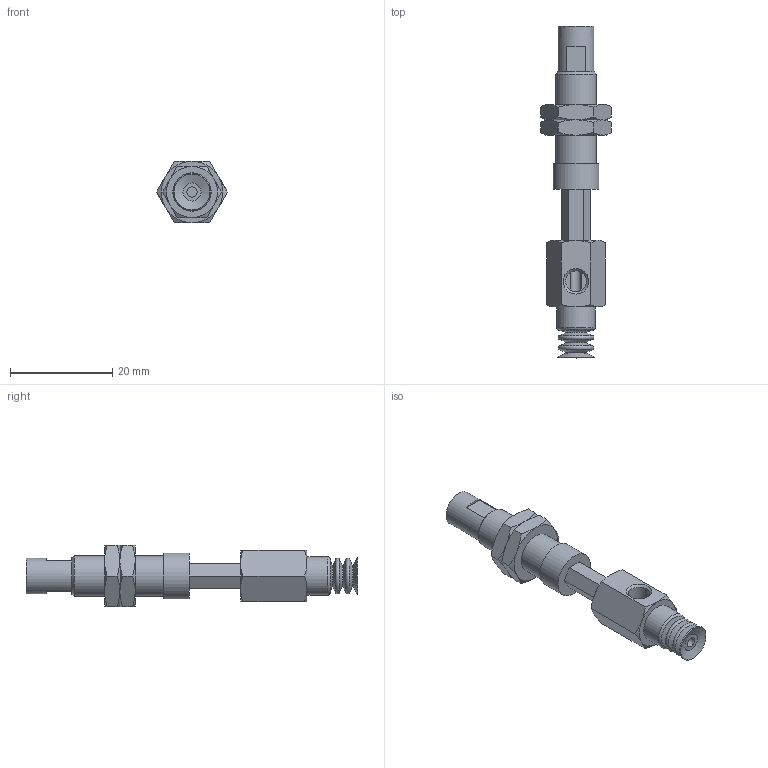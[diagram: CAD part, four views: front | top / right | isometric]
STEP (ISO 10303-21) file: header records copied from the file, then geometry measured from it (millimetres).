
FILE_DESCRIPTION(('STEP AP203'),'1');
FILE_NAME('.stp','2025-04-03T07:37:01',(' '),(' '),'Spatial InterOp 3D',' ',' ');
FILE_SCHEMA(('CONFIG_CONTROL_DESIGN'));
Length unit declared in the file: millimetre
Products named in the file (6): BNABPCYH-7-10-※; Connector_h-7-10; Nut napc_h-7-10; NAPCTH-7-10-FBODY; NAPCTH-7-10-MBODY; BPCG-7-※
Assembly tree (6 placements, depth 2):
  BNABPCYH-7-10-※
    Connector_h-7-10
    Nut napc_h-7-10  x2
    NAPCTH-7-10-FBODY
    NAPCTH-7-10-MBODY
    BPCG-7-※
Bounding box: 13.86 x 65 x 12 mm (x, y, z)
Volume: 3448.6 mm3; surface area: 4258.7 mm2
Topology: 6 solids, 6 shells, 146 faces, 310 edges, 185 vertices
Faces by surface type: plane 63, cone 55, cylinder 15, torus 13
Full cylindrical faces by diameter (mm): 2 x2, 4 x2, 4.134 x2, 5 x1, 6 x2, 7 x1, 7.188 x2, 7.5 x1, 8 x1, 9 x1
Entity records: 3584 total; most frequent: CARTESIAN_POINT 848, DIRECTION 508, ORIENTED_EDGE 432, AXIS2_PLACEMENT_3D 216, EDGE_CURVE 216, EDGE_LOOP 184, VERTEX_POINT 154, FACE_OUTER_BOUND 150
